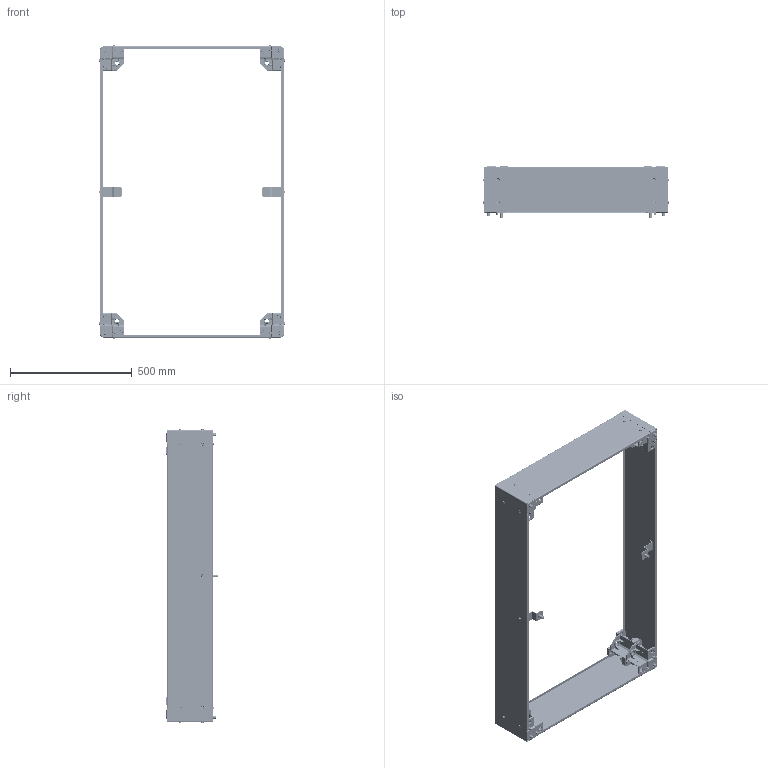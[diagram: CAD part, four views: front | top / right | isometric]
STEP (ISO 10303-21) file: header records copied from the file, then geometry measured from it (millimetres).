
FILE_DESCRIPTION (( 'STEP AP203' ), '1' );
FILE_NAME ('ppb2128.STEP', '2010-08-31T13:52:58', ( 'Hoffman User' ), ( 'Hoffman Enclosures' ), 'SwSTEP 2.0', 'SolidWorks 2009', '' );
FILE_SCHEMA (( 'CONFIG_CONTROL_DESIGN' ));
Length unit declared in the file: inch
Products named in the file (11): 87547883_87547883; 87551445; 99416882_Hex Nut  M12; 99414993_99414993; ppb2128; 60127131_60127131; 87551432; 87552309_FLEXIBLE; 52312101_DIN 6797-A13; 87540699_ Hex cap screw, M12 x 1.75 x 35; 87545338
Assembly tree (67 placements, depth 3):
  ppb2128
    60127131_60127131  x8
    87551445  x2
    87551432  x2
    87552309_FLEXIBLE
      52312101_DIN 6797-A13  x12
      87540699_ Hex cap screw, M12 x 1.75 x 35  x12
      87547883_87547883  x18
      99416882_Hex Nut  M12  x8
      99414993_99414993  x2
      87545338  x2
Bounding box: 764.13 x 215.09 x 1204.13 mm (x, y, z)
Volume: 2576750.7 mm3; surface area: 2243267.8 mm2
Topology: 66 solids, 66 shells, 8484 faces, 20420 edges, 11950 vertices
Faces by surface type: cylinder 2492, plane 2342, cone 2026, bspline 1040, torus 328, sphere 256
Entity records: 47588 total; most frequent: CARTESIAN_POINT 20491, ORIENTED_EDGE 5156, DIRECTION 5089, EDGE_CURVE 2578, AXIS2_PLACEMENT_3D 1983, VERTEX_POINT 1535, EDGE_LOOP 1175, VECTOR 1123
